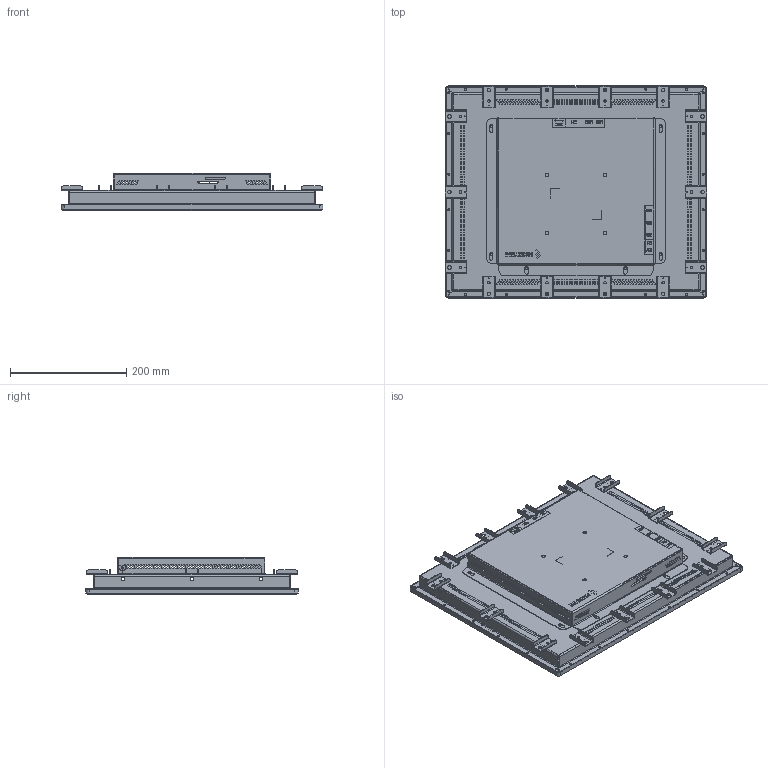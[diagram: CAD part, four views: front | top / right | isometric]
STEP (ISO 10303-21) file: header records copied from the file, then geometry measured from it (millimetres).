
FILE_DESCRIPTION(('STEP AP242'), '1');
FILE_NAME('Ñáîðêà_HMI19D', '', ('UNSPECIFIED'), ('UNSPECIFIED'), 'C3D Converter', 'C3D Toolkit', '');
FILE_SCHEMA(('AP242_MANAGED_MODEL_BASED_3D_ENGINEERING_MIM_LF { 1 0 10303 442 1 1 4 }'));
Length unit declared in the file: millimetre
Bounding box: 450.2 x 365.1 x 64 mm (x, y, z)
Volume: 1173984.4 mm3; surface area: 972851.1 mm2
Topology: 2 solids, 2 shells, 3453 faces, 9487 edges, 6184 vertices
Faces by surface type: plane 1778, cylinder 1101, extrusion 526, bspline 40, cone 8
Full cylindrical faces by diameter (mm): 1.6 x14, 2 x14, 2.5 x28, 3.2 x4, 3.5 x24, 4 x6, 4.15 x1, 4.2 x14, 4.22 x11, 4.35 x18, 5.4 x4, 6 x18, 6.1 x6
Entity records: 141113 total; most frequent: CARTESIAN_POINT 24985, ORIENTED_EDGE 18650, DIRECTION 16661, EDGE_CURVE 9325, VECTOR 6553, VERTEX_POINT 6184, LINE 6027, AXIS2_PLACEMENT_3D 5054
